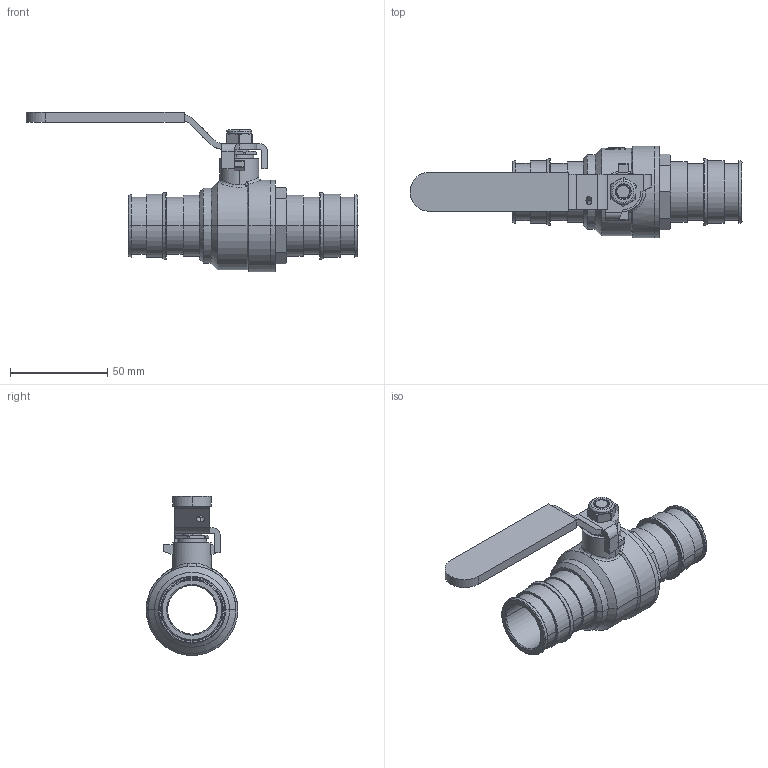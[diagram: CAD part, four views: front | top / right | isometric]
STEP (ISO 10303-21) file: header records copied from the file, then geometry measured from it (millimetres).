
FILE_DESCRIPTION(('Open CASCADE Model'),'2;1');
FILE_NAME('Open CASCADE Shape Model','2021-11-23T09:11:28',('Author'),( 'Open CASCADE'),'Open CASCADE STEP processor 7.3','Open CASCADE 7.3' ,'Unknown');
FILE_SCHEMA(('AUTOMOTIVE_DESIGN { 1 0 10303 214 1 1 1 1 }'));
Length unit declared in the file: millimetre
Products named in the file (12): Open CASCADE STEP translator 7.3 1; Open CASCADE STEP translator 7.3 1.1; Open CASCADE STEP translator 7.3 1.2; Open CASCADE STEP translator 7.3 1.3; Open CASCADE STEP translator 7.3 1.4; Open CASCADE STEP translator 7.3 1.5; Open CASCADE STEP translator 7.3 1.6; Open CASCADE STEP translator 7.3 1.7; Open CASCADE STEP translator 7.3 1.8; Open CASCADE STEP translator 7.3 1.9; Open CASCADE STEP translator 7.3 1.10; Open CASCADE STEP translator 7.3 1.11
Assembly tree (11 placements, depth 2):
  Open CASCADE STEP translator 7.3 1
    Open CASCADE STEP translator 7.3 1.1
    Open CASCADE STEP translator 7.3 1.2
    Open CASCADE STEP translator 7.3 1.3
    Open CASCADE STEP translator 7.3 1.4
    Open CASCADE STEP translator 7.3 1.5
    Open CASCADE STEP translator 7.3 1.6
    Open CASCADE STEP translator 7.3 1.7
    Open CASCADE STEP translator 7.3 1.8
    Open CASCADE STEP translator 7.3 1.9
    Open CASCADE STEP translator 7.3 1.10
    Open CASCADE STEP translator 7.3 1.11
Bounding box: 170.5 x 47 x 81.72 mm (x, y, z)
Volume: 75069.2 mm3; surface area: 52577.6 mm2
Topology: 11 solids, 11 shells, 611 faces, 1561 edges, 1011 vertices
Faces by surface type: cylinder 193, plane 178, bspline 118, cone 80, torus 36, sphere 6
Entity records: 89527 total; most frequent: CARTESIAN_POINT 61563, DIRECTION 4246, ORIENTED_EDGE 3118, PCURVE 3118, DEFINITIONAL_REPRESENTATION 3118, LINE 2143, VECTOR 2143, EDGE_CURVE 1559
